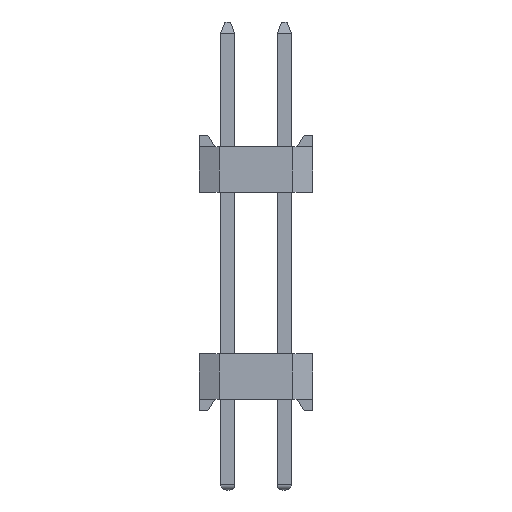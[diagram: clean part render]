
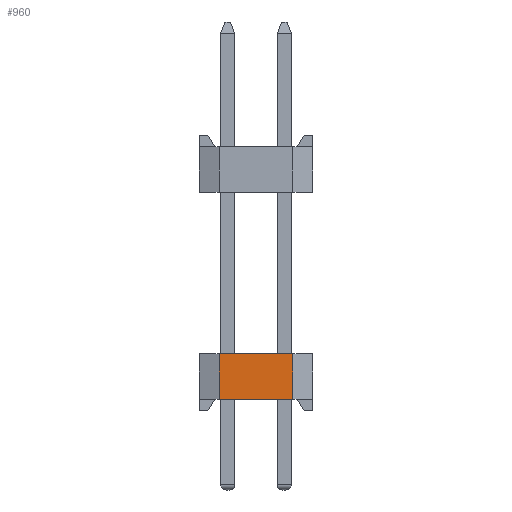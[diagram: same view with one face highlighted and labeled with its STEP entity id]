
A CAD part, left-side view. The second image highlights one B-rep face of the part: STEP entity #960.
In plain terms, the highlighted planar face has unit normal (-1, 0, 0).
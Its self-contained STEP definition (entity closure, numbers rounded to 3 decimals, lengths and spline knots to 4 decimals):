
#960=ADVANCED_FACE('',(#6008),#3632,.T.);
#3632=PLANE('',#50345);
#6008=FACE_OUTER_BOUND('',#8754,.T.);
#8754=EDGE_LOOP('',(#12426,#12427,#12428,#12429));
#12426=ORIENTED_EDGE('',*,*,#30773,.F.);
#12427=ORIENTED_EDGE('',*,*,#30430,.T.);
#12428=ORIENTED_EDGE('',*,*,#30774,.T.);
#12429=ORIENTED_EDGE('',*,*,#30775,.T.);
#25982=VERTEX_POINT('',#66795);
#25983=VERTEX_POINT('',#66796);
#26288=VERTEX_POINT('',#67446);
#26289=VERTEX_POINT('',#67448);
#30430=EDGE_CURVE('',#25982,#25983,#37398,.T.);
#30773=EDGE_CURVE('',#25982,#26288,#37741,.T.);
#30774=EDGE_CURVE('',#25983,#26289,#37742,.T.);
#30775=EDGE_CURVE('',#26289,#26288,#37743,.T.);
#37398=LINE('',#66794,#44070);
#37741=LINE('',#67445,#44413);
#37742=LINE('',#67447,#44414);
#37743=LINE('',#67449,#44415);
#44070=VECTOR('',#53785,1.);
#44413=VECTOR('',#54132,1.);
#44414=VECTOR('',#54133,1.);
#44415=VECTOR('',#54134,1.);
#50345=AXIS2_PLACEMENT_3D('',#67450,#54135,#54136);
#53785=DIRECTION('',(0.,1.,0.));
#54132=DIRECTION('',(0.,0.,-1.));
#54133=DIRECTION('',(0.,0.,-1.));
#54134=DIRECTION('',(0.,-1.,0.));
#54135=DIRECTION('',(-1.,0.,0.));
#54136=DIRECTION('',(0.,0.,1.));
#66794=CARTESIAN_POINT('',(0.,1.,1.6));
#66795=CARTESIAN_POINT('',(0.,0.7,1.6));
#66796=CARTESIAN_POINT('',(0.,3.3,1.6));
#67445=CARTESIAN_POINT('',(0.,0.7,0.));
#67446=CARTESIAN_POINT('',(0.,0.7,0.));
#67447=CARTESIAN_POINT('',(0.,3.3,0.));
#67448=CARTESIAN_POINT('',(0.,3.3,0.));
#67449=CARTESIAN_POINT('',(0.,1.,0.));
#67450=CARTESIAN_POINT('',(0.,1.,0.));
